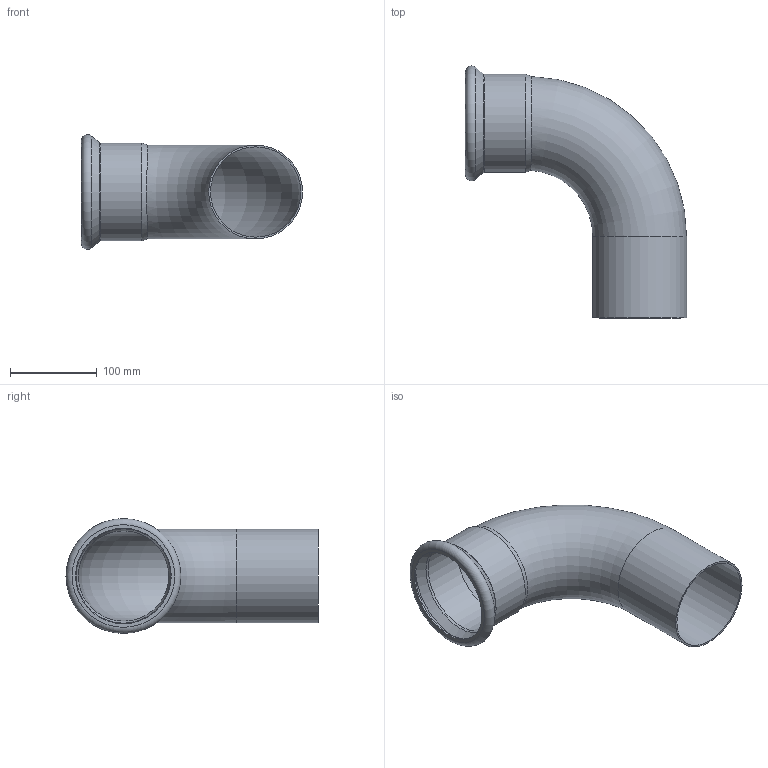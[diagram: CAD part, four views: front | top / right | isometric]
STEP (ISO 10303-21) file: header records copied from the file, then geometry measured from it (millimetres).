
FILE_DESCRIPTION((''),'2;1');
FILE_NAME('G:\Technics\CAD\Bauteile\108\69001A108(2).stp','2008-03-19T11:40:00',('herberg'),(''),'Autodesk Inventor 2008','Autodesk Inventor 2008','');
FILE_SCHEMA(('AUTOMOTIVE_DESIGN { 1 0 10303 214 1 1 1 1 }'));
Length unit declared in the file: millimetre
Products named in the file (1): 69001A108(2)
Bounding box: 254.5 x 290.09 x 132.19 mm (x, y, z)
Volume: 256960.5 mm3; surface area: 258324.5 mm2
Topology: 1 solids, 1 shells, 18 faces, 35 edges, 20 vertices
Faces by surface type: cylinder 5, cone 4, torus 4, plane 3, bspline 2
Full cylindrical faces by diameter (mm): 104 x1, 108 x1, 108.7 x1, 110 x1, 112.7 x1
Entity records: 540 total; most frequent: CARTESIAN_POINT 215, DIRECTION 66, ORIENTED_EDGE 36, EDGE_LOOP 36, AXIS2_PLACEMENT_3D 33, VERTEX_POINT 18, EDGE_CURVE 18, FACE_OUTER_BOUND 18
